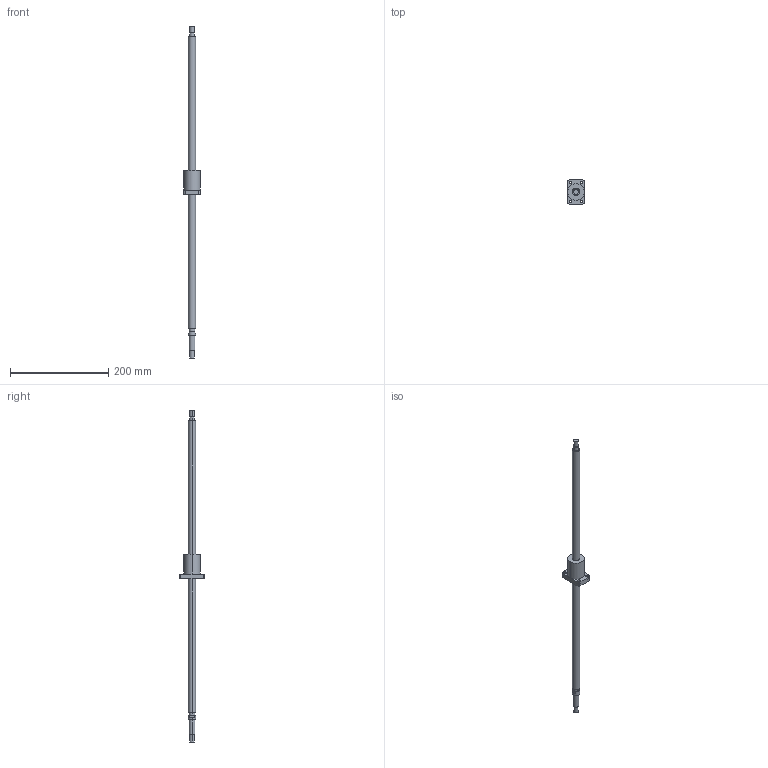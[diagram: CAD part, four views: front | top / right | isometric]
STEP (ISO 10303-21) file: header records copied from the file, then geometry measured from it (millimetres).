
FILE_DESCRIPTION((''),'2;1');
FILE_NAME('R15-10K3-FSC-589-671','2008-03-28T',('mahdi'),(''),'PRO/ENGINEER BY PARAMETRIC TECHNOLOGY CORPORATION, 2005070','PRO/ENGINEER BY PARAMETRIC TECHNOLOGY CORPORATION, 2005070','');
FILE_SCHEMA(('CONFIG_CONTROL_DESIGN'));
Length unit declared in the file: millimetre
Products named in the file (1): R15-10K3-FSC-589-671
Bounding box: 34 x 50 x 677 mm (x, y, z)
Volume: 156037.9 mm3; surface area: 38810.6 mm2
Topology: 1 solids, 1 shells, 66 faces, 148 edges, 96 vertices
Faces by surface type: cylinder 40, plane 26
Entity records: 1926 total; most frequent: DIRECTION 364, CARTESIAN_POINT 310, ORIENTED_EDGE 296, AXIS2_PLACEMENT_3D 150, EDGE_CURVE 148, VERTEX_POINT 96, EDGE_LOOP 86, CIRCLE 84
